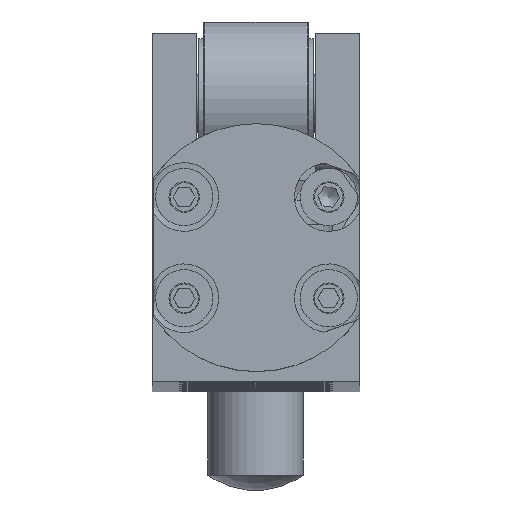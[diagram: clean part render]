
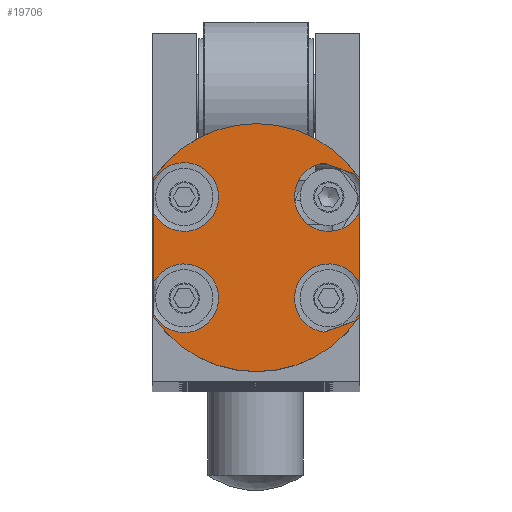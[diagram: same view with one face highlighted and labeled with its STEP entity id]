
A CAD part, top view. The second image highlights one B-rep face of the part: STEP entity #19706.
In plain terms, the highlighted planar face has unit normal (0, 0, 1).
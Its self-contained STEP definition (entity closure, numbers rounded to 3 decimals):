
#847=LINE('',#36468,#1609);
#848=LINE('',#36471,#1610);
#849=LINE('',#36475,#1611);
#850=LINE('',#36479,#1612);
#851=LINE('',#36483,#1613);
#852=LINE('',#36487,#1614);
#853=LINE('',#36491,#1615);
#854=LINE('',#36494,#1616);
#1609=VECTOR('',#27537,10.);
#1610=VECTOR('',#27540,10.);
#1611=VECTOR('',#27543,10.);
#1612=VECTOR('',#27546,10.);
#1613=VECTOR('',#27549,10.);
#1614=VECTOR('',#27552,10.);
#1615=VECTOR('',#27555,10.);
#1616=VECTOR('',#27558,10.);
#3504=FACE_OUTER_BOUND('',#4707,.T.);
#4707=EDGE_LOOP('',(#15930,#15931,#15932,#15933,#15934,#15935,#15936,#15937,
#15938,#15939,#15940,#15941,#15942,#15943,#15944,#15945));
#6420=CIRCLE('',#22084,3.6);
#6423=CIRCLE('',#22087,3.6);
#6424=CIRCLE('',#22091,3.6);
#6425=CIRCLE('',#22092,3.6);
#6426=CIRCLE('',#22093,13.);
#6427=CIRCLE('',#22094,3.6);
#6428=CIRCLE('',#22095,3.6);
#6429=CIRCLE('',#22096,13.);
#8475=VERTEX_POINT('',#36444);
#8476=VERTEX_POINT('',#36445);
#8477=VERTEX_POINT('',#36449);
#8481=VERTEX_POINT('',#36460);
#8482=VERTEX_POINT('',#36470);
#8483=VERTEX_POINT('',#36472);
#8484=VERTEX_POINT('',#36474);
#8485=VERTEX_POINT('',#36476);
#8486=VERTEX_POINT('',#36478);
#8487=VERTEX_POINT('',#36480);
#8488=VERTEX_POINT('',#36482);
#8489=VERTEX_POINT('',#36484);
#8490=VERTEX_POINT('',#36486);
#8491=VERTEX_POINT('',#36488);
#8492=VERTEX_POINT('',#36490);
#8493=VERTEX_POINT('',#36492);
#11133=EDGE_CURVE('',#8477,#8475,#6420,.T.);
#11139=EDGE_CURVE('',#8476,#8481,#6423,.T.);
#11141=EDGE_CURVE('',#8481,#8477,#847,.T.);
#11142=EDGE_CURVE('',#8475,#8482,#848,.T.);
#11143=EDGE_CURVE('',#8482,#8483,#6424,.T.);
#11144=EDGE_CURVE('',#8483,#8484,#849,.T.);
#11145=EDGE_CURVE('',#8484,#8485,#6425,.T.);
#11146=EDGE_CURVE('',#8485,#8486,#850,.T.);
#11147=EDGE_CURVE('',#8487,#8486,#6426,.T.);
#11148=EDGE_CURVE('',#8487,#8488,#851,.T.);
#11149=EDGE_CURVE('',#8488,#8489,#6427,.T.);
#11150=EDGE_CURVE('',#8489,#8490,#852,.T.);
#11151=EDGE_CURVE('',#8490,#8491,#6428,.T.);
#11152=EDGE_CURVE('',#8491,#8492,#853,.T.);
#11153=EDGE_CURVE('',#8493,#8492,#6429,.T.);
#11154=EDGE_CURVE('',#8493,#8476,#854,.T.);
#15930=ORIENTED_EDGE('',*,*,#11139,.T.);
#15931=ORIENTED_EDGE('',*,*,#11141,.T.);
#15932=ORIENTED_EDGE('',*,*,#11133,.T.);
#15933=ORIENTED_EDGE('',*,*,#11142,.T.);
#15934=ORIENTED_EDGE('',*,*,#11143,.T.);
#15935=ORIENTED_EDGE('',*,*,#11144,.T.);
#15936=ORIENTED_EDGE('',*,*,#11145,.T.);
#15937=ORIENTED_EDGE('',*,*,#11146,.T.);
#15938=ORIENTED_EDGE('',*,*,#11147,.F.);
#15939=ORIENTED_EDGE('',*,*,#11148,.T.);
#15940=ORIENTED_EDGE('',*,*,#11149,.T.);
#15941=ORIENTED_EDGE('',*,*,#11150,.T.);
#15942=ORIENTED_EDGE('',*,*,#11151,.T.);
#15943=ORIENTED_EDGE('',*,*,#11152,.T.);
#15944=ORIENTED_EDGE('',*,*,#11153,.F.);
#15945=ORIENTED_EDGE('',*,*,#11154,.T.);
#17969=PLANE('',#22090);
#19706=ADVANCED_FACE('',(#3504),#17969,.T.);
#22084=AXIS2_PLACEMENT_3D('',#36450,#27523,#27524);
#22087=AXIS2_PLACEMENT_3D('',#36464,#27530,#27531);
#22090=AXIS2_PLACEMENT_3D('',#36469,#27538,#27539);
#22091=AXIS2_PLACEMENT_3D('',#36473,#27541,#27542);
#22092=AXIS2_PLACEMENT_3D('',#36477,#27544,#27545);
#22093=AXIS2_PLACEMENT_3D('',#36481,#27547,#27548);
#22094=AXIS2_PLACEMENT_3D('',#36485,#27550,#27551);
#22095=AXIS2_PLACEMENT_3D('',#36489,#27553,#27554);
#22096=AXIS2_PLACEMENT_3D('',#36493,#27556,#27557);
#27523=DIRECTION('center_axis',(0.,0.,
-1.));
#27524=DIRECTION('ref_axis',(-0.342,0.94,0.));
#27530=DIRECTION('center_axis',(0.,0.,
-1.));
#27531=DIRECTION('ref_axis',(-0.342,0.94,0.));
#27537=DIRECTION('',(-0.94,-0.342,0.));
#27538=DIRECTION('center_axis',(0.,0.,
1.));
#27539=DIRECTION('ref_axis',(1.,0.,0.));
#27540=DIRECTION('',(0.,1.,0.));
#27541=DIRECTION('center_axis',(0.,0.,
-1.));
#27542=DIRECTION('ref_axis',(-0.342,-0.94,0.));
#27543=DIRECTION('',(0.94,-0.342,0.));
#27544=DIRECTION('center_axis',(0.,0.,
-1.));
#27545=DIRECTION('ref_axis',(-0.342,-0.94,0.));
#27546=DIRECTION('',(0.,1.,0.));
#27547=DIRECTION('center_axis',(0.,0.,
-1.));
#27548=DIRECTION('ref_axis',(0.,1.,0.));
#27549=DIRECTION('',(0.,-1.,0.));
#27550=DIRECTION('center_axis',(0.,0.,
-1.));
#27551=DIRECTION('ref_axis',(1.,0.,0.));
#27552=DIRECTION('',(0.,-1.,0.));
#27553=DIRECTION('center_axis',(0.,0.,
-1.));
#27554=DIRECTION('ref_axis',(1.,0.,0.));
#27555=DIRECTION('',(0.,-1.,0.));
#27556=DIRECTION('center_axis',(0.,0.,
-1.));
#27557=DIRECTION('ref_axis',(0.,1.,0.));
#27558=DIRECTION('',(0.,1.,0.));
#36444=CARTESIAN_POINT('',(10.8,-7.855,326.));
#36445=CARTESIAN_POINT('',(10.8,-11.256,326.));
#36449=CARTESIAN_POINT('',(7.114,-13.119,326.));
#36450=CARTESIAN_POINT('Origin',(7.627,-9.556,326.));
#36460=CARTESIAN_POINT('',(10.311,-11.955,326.));
#36464=CARTESIAN_POINT('Origin',(7.627,-9.556,326.));
#36468=CARTESIAN_POINT('',(8.206,-12.721,326.));
#36469=CARTESIAN_POINT('Origin',(0.05,2.25,326.));
#36470=CARTESIAN_POINT('',(10.8,-0.645,326.));
#36471=CARTESIAN_POINT('',(10.8,-4.655,326.));
#36472=CARTESIAN_POINT('',(7.114,4.619,326.));
#36473=CARTESIAN_POINT('Origin',(7.627,1.056,326.));
#36474=CARTESIAN_POINT('',(10.311,3.455,326.));
#36475=CARTESIAN_POINT('',(6.117,4.982,326.));
#36476=CARTESIAN_POINT('',(10.8,2.756,326.));
#36477=CARTESIAN_POINT('Origin',(7.627,1.056,326.));
#36478=CARTESIAN_POINT('',(10.8,3.06,326.));
#36479=CARTESIAN_POINT('',(10.8,-4.655,326.));
#36480=CARTESIAN_POINT('',(-10.7,3.06,326.));
#36481=CARTESIAN_POINT('Origin',(0.05,-4.25,326.));
#36482=CARTESIAN_POINT('',(-10.7,2.756,326.));
#36483=CARTESIAN_POINT('',(-10.7,2.655,326.));
#36484=CARTESIAN_POINT('',(-10.7,-0.645,326.));
#36485=CARTESIAN_POINT('Origin',(-7.527,1.056,326.));
#36486=CARTESIAN_POINT('',(-10.7,-7.855,326.));
#36487=CARTESIAN_POINT('',(-10.7,2.655,326.));
#36488=CARTESIAN_POINT('',(-10.7,-11.256,326.));
#36489=CARTESIAN_POINT('Origin',(-7.527,-9.556,326.));
#36490=CARTESIAN_POINT('',(-10.7,-11.56,326.));
#36491=CARTESIAN_POINT('',(-10.7,2.655,326.));
#36492=CARTESIAN_POINT('',(10.8,-11.56,326.));
#36493=CARTESIAN_POINT('Origin',(0.05,-4.25,326.));
#36494=CARTESIAN_POINT('',(10.8,-4.655,326.));
